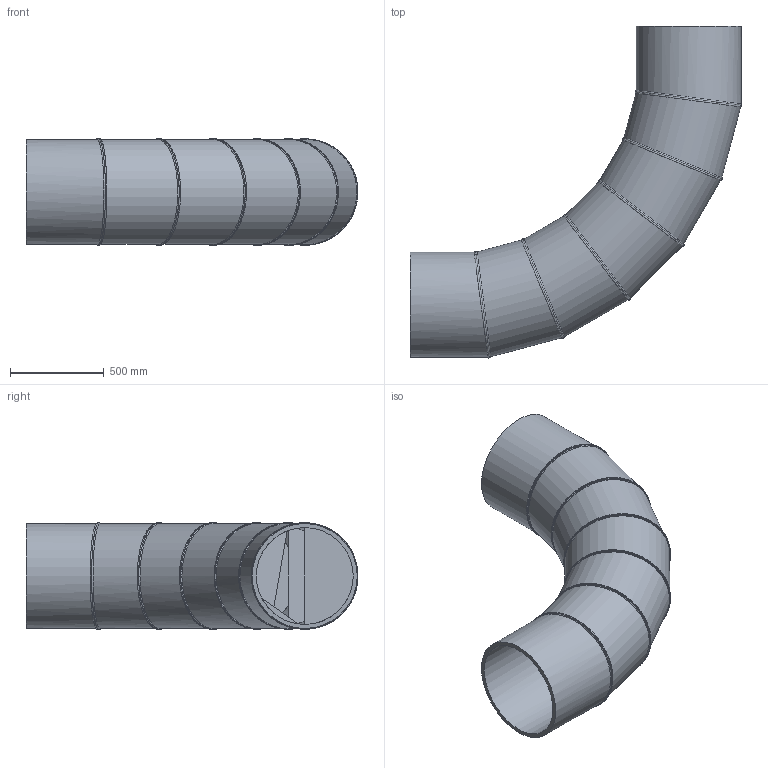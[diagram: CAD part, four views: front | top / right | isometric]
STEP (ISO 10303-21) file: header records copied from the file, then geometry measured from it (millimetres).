
FILE_DESCRIPTION(/* description */ ('Unknown'),/* implementation_level */ '2;1');
FILE_NAME(/* name */ 'Curva 90° a settore DE560 SDR26',/* time_stamp */ '2022-07-27T09:54:06+02:00',/* author */ ('Unknown'),/* organization */ ('Unknown'),/* preprocessor_version */ 'ST-DEVELOPER v18.102',/* originating_system */ 'Solid Edge',/* authorisation */ 'Unknown');
FILE_SCHEMA (('AUTOMOTIVE_DESIGN {1 0 10303 214 3 1 1}'));
Length unit declared in the file: millimetre
Products named in the file (3): Curva 90° a settore DE560 SDR26; Tubo x Gomito 90° DE560 SDR26 - 2; Tubo x Gomito 90° DE560 SDR26 - 1
Assembly tree (7 placements, depth 2):
  Curva 90° a settore DE560 SDR26
    Tubo x Gomito 90° DE560 SDR26 - 2  x5
    Tubo x Gomito 90° DE560 SDR26 - 1  x2
Bounding box: 1771.44 x 1771.44 x 567.99 mm (x, y, z)
Volume: 88974039.7 mm3; surface area: 8875159 mm2
Topology: 7 solids, 7 shells, 64 faces, 143 edges, 93 vertices
Faces by surface type: cylinder 38, plane 14, bspline 12
Full cylindrical faces by diameter (mm): 517.2 x7, 560 x7
Entity records: 3500 total; most frequent: CARTESIAN_POINT 3077, DIRECTION 78, ORIENTED_EDGE 52, AXIS2_PLACEMENT_3D 39, EDGE_LOOP 28, FACE_BOUND 28, EDGE_CURVE 26, VERTEX_POINT 20
